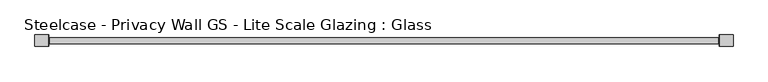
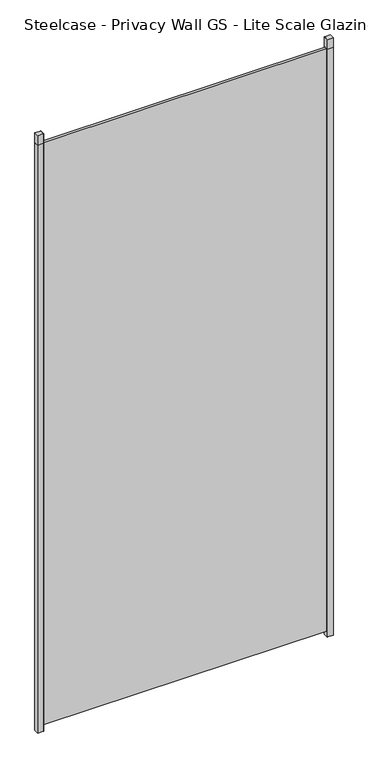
"""IFC4 building model written with IfcOpenShell, lengths in millimetres: plate geometry, Steelcase - Privacy Wall GS - Lite Scale Glazing : Glass."""

from ifc_helpers import new_model, si_unit, frame, origin, origin_with_axes, place, context, project, spatial, polyline, outline, extrude, source, transform, mapped, element, save


def steelcase_privacy_wall_gs_lite_scale_glazing_glass_13d12927(model_context):
    return source(origin(), model_context, "Body", "SweptSolid", [
        extrude(outline(polyline([(686.828729, 11.7474777), (713.8161957, 11.7474777), (713.8161957, -11.7475002), (686.828729, -11.7475002), (686.828729, 11.7474777)])), frame((0.0, 0.0, 2970.784), z_axis=(0.0, 0.0, 1.0), x_axis=(1.0, 0.0, 0.0)), (0.0, 0.0, 1.0), 49.276),
        extrude(outline(polyline([(713.8161957, 11.7474777), (713.8161957, -11.7475002), (686.828729, -11.7475002), (686.828729, -6.3896792), (709.3239708, -6.3896792), (709.3239708, 6.3500051), (686.828729, 6.3500051), (686.828729, 11.7474777), (713.8161957, 11.7474777)])), frame((0.0, 0.0, -27.8638004), z_axis=(0.0, 0.0, 1.0), x_axis=(1.0, 0.0, 0.0)), (0.0, 0.0, 1.0), 2998.6478004),
        extrude(outline(polyline([(686.828729, 11.7474777), (686.828729, -11.7474954), (685.8, -11.7474954), (685.8, 11.7474777), (686.828729, 11.7474777)])), frame((0.0, 0.0, -27.8638004), z_axis=(0.0, 0.0, 1.0), x_axis=(1.0, 0.0, 0.0)), (0.0, 0.0, 1.0), 3047.9238004),
        extrude(outline(polyline([(-686.828729, 11.7474777), (-686.828729, -11.7475002), (-713.8161957, -11.7475002), (-713.8161957, 11.7474777), (-686.828729, 11.7474777)])), frame((0.0, 0.0, 2970.784), z_axis=(0.0, 0.0, 1.0), x_axis=(1.0, 0.0, 0.0)), (0.0, 0.0, 1.0), 49.276),
        extrude(outline(polyline([(-713.8161957, 11.7474777), (-686.828729, 11.7474777), (-686.828729, 6.3500051), (-709.3239708, 6.3500051), (-709.3239708, -6.3896792), (-686.828729, -6.3896792), (-686.828729, -11.7475002), (-713.8161957, -11.7475002), (-713.8161957, 11.7474777)])), frame((0.0, 0.0, -27.8638004), z_axis=(0.0, 0.0, 1.0), x_axis=(1.0, 0.0, 0.0)), (0.0, 0.0, 1.0), 2998.6478004),
        extrude(outline(polyline([(-686.828729, 11.7474777), (-685.8, 11.7474777), (-685.8, -11.7474954), (-686.828729, -11.7474954), (-686.828729, 11.7474777)])), frame((0.0, 0.0, -27.8638004), z_axis=(0.0, 0.0, 1.0), x_axis=(1.0, 0.0, 0.0)), (0.0, 0.0, 1.0), 3047.9238004),
        extrude(outline(polyline([(-683.768, -6.349956), (-683.768, 6.3502015), (683.768, 6.3502015), (683.768, -6.349956), (-683.768, -6.349956)])), origin_with_axes(), (0.0, 0.0, 1.0), 2970.784),
    ])


if __name__ == "__main__":
    model = new_model("IFC4")
    model_context = context("Model", 3, world=origin())
    ifc_project = project(units=[si_unit("LENGTHUNIT", "METRE", prefix="MILLI")], contexts=[model_context])
    site = spatial("IfcSite", under=ifc_project)
    building = spatial("IfcBuilding", under=site)
    placement = place(None, origin())
    steelcase_privacy_wall_gs_lite_scale_glazing_glass_shape = steelcase_privacy_wall_gs_lite_scale_glazing_glass_13d12927(model_context)
    element("IfcPlate", 1, ObjectType="Steelcase - Privacy Wall GS - Lite Scale Glazing : Glass", at=placement, inside=building, context=model_context, shape_type="MappedRepresentation", body=[
        mapped(steelcase_privacy_wall_gs_lite_scale_glazing_glass_shape, transform((0.0, 0.0, 0.0), x_axis=(1.0, 0.0, 0.0), y_axis=(0.0, 1.0, 0.0), z_axis=(0.0, 0.0, 1.0))),
    ])
    save(model, "model.ifc")
